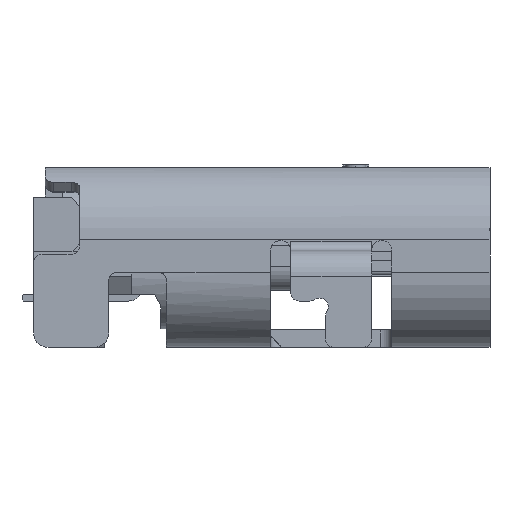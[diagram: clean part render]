
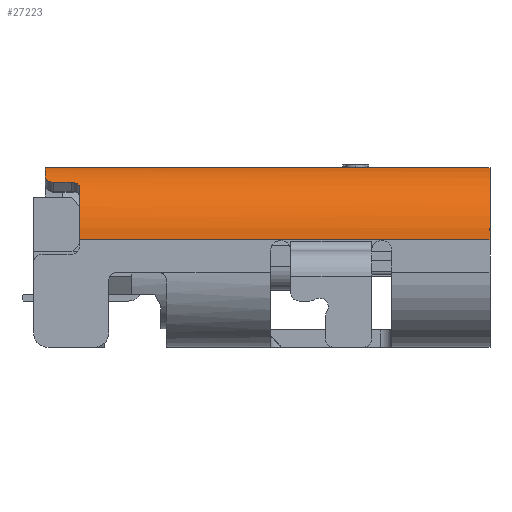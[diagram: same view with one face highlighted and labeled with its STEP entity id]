
A CAD part, left-side view. The second image highlights one B-rep face of the part: STEP entity #27223.
In plain terms, the highlighted cylindrical face has radius 1.3 mm (diameter 2.6 mm), a partial arc.
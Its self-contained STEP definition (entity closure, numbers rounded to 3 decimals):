
#1974 = DIRECTION ( 'NONE',  ( 0., 0., 1. ) ) ;
#2337 = CARTESIAN_POINT ( 'NONE',  ( -3.527, 1.53, 0. ) ) ;
#4339 = CIRCLE ( 'NONE', #78431, 1.3 ) ;
#4611 = CARTESIAN_POINT ( 'NONE',  ( -4.115, 1.173, -7.1 ) ) ;
#4909 = FACE_OUTER_BOUND ( 'NONE', #11389, .T. ) ;
#5036 = CARTESIAN_POINT ( 'NONE',  ( -3.949, 1.321, -7.684 ) ) ;
#5392 = EDGE_CURVE ( 'NONE', #75186, #44914, #77692, .T. ) ;
#8376 = VECTOR ( 'NONE', #1974, 1000. ) ;
#8619 = CARTESIAN_POINT ( 'NONE',  ( -4.018, 1.266, -7.172 ) ) ;
#11389 = EDGE_LOOP ( 'NONE', ( #76537, #35582, #33724, #37266, #41209, #28861, #58754, #48403 ) ) ;
#13073 = AXIS2_PLACEMENT_3D ( 'NONE', #77287, #16535, #60107 ) ;
#16535 = DIRECTION ( 'NONE',  ( 0., 0., 1. ) ) ;
#17023 = VERTEX_POINT ( 'NONE', #75801 ) ;
#17461 = CARTESIAN_POINT ( 'NONE',  ( -4.006, 1.276, -7.59 ) ) ;
#17844 = CARTESIAN_POINT ( 'NONE',  ( -3.918, 1.344, -7.7 ) ) ;
#18213 = CARTESIAN_POINT ( 'NONE',  ( -3.885, 1.366, -7.7 ) ) ;
#19837 = CARTESIAN_POINT ( 'NONE',  ( -4.06, 1.228, -7.116 ) ) ;
#20374 = CARTESIAN_POINT ( 'NONE',  ( -4.006, 1.276, -7.55 ) ) ;
#23688 = CARTESIAN_POINT ( 'NONE',  ( -4.47, 0.28, -7.1 ) ) ;
#25484 = CARTESIAN_POINT ( 'NONE',  ( -3.17, 0.28, 0. ) ) ;
#25758 = DIRECTION ( 'NONE',  ( 0., 0., 1. ) ) ;
#26732 = DIRECTION ( 'NONE',  ( 0., 0., -1. ) ) ;
#27223 = ADVANCED_FACE ( 'NONE', ( #4909 ), #72086, .T. ) ;
#28861 = ORIENTED_EDGE ( 'NONE', *, *, #56316, .T. ) ;
#29081 = B_SPLINE_CURVE_WITH_KNOTS ( 'NONE', 3,
 ( #59834, #17844, #5036, #29436, #17461, #41845 ),
 .UNSPECIFIED., .F., .F.,
 ( 4, 2, 4 ),
 ( 0., 0.5, 1. ),
 .UNSPECIFIED. ) ;
#29436 = CARTESIAN_POINT ( 'NONE',  ( -3.993, 1.286, -7.628 ) ) ;
#29953 = EDGE_CURVE ( 'NONE', #61663, #75186, #38363, .T. ) ;
#31144 = CARTESIAN_POINT ( 'NONE',  ( -3.527, 1.53, 0. ) ) ;
#31297 = EDGE_CURVE ( 'NONE', #61663, #17023, #4339, .T. ) ;
#32557 = VECTOR ( 'NONE', #26732, 1000. ) ;
#32877 = CARTESIAN_POINT ( 'NONE',  ( -3.17, 0.28, -7.1 ) ) ;
#33401 = CARTESIAN_POINT ( 'NONE',  ( -4.006, 1.276, -7.25 ) ) ;
#33724 = ORIENTED_EDGE ( 'NONE', *, *, #5392, .T. ) ;
#33950 = EDGE_CURVE ( 'NONE', #77710, #44496, #38385, .T. ) ;
#35266 = EDGE_CURVE ( 'NONE', #38597, #48479, #42797, .T. ) ;
#35582 = ORIENTED_EDGE ( 'NONE', *, *, #29953, .T. ) ;
#37266 = ORIENTED_EDGE ( 'NONE', *, *, #77135, .T. ) ;
#38164 = CARTESIAN_POINT ( 'NONE',  ( -3.17, 0.28, -7.7 ) ) ;
#38235 = CARTESIAN_POINT ( 'NONE',  ( -4.088, 1.201, -7.1 ) ) ;
#38363 = LINE ( 'NONE', #2337, #32557 ) ;
#38385 = LINE ( 'NONE', #20374, #8376 ) ;
#38597 = VERTEX_POINT ( 'NONE', #4611 ) ;
#38886 = DIRECTION ( 'NONE',  ( 0., 0., 1. ) ) ;
#38975 = AXIS2_PLACEMENT_3D ( 'NONE', #32877, #38886, #39672 ) ;
#39002 = EDGE_CURVE ( 'NONE', #17023, #48479, #66476, .T. ) ;
#39672 = DIRECTION ( 'NONE',  ( -0.727, 0.687, 0. ) ) ;
#40081 = CARTESIAN_POINT ( 'NONE',  ( -4.006, 1.276, -7.55 ) ) ;
#41209 = ORIENTED_EDGE ( 'NONE', *, *, #33950, .T. ) ;
#41845 = CARTESIAN_POINT ( 'NONE',  ( -4.006, 1.276, -7.55 ) ) ;
#42797 = CIRCLE ( 'NONE', #38975, 1.3 ) ;
#43449 = CARTESIAN_POINT ( 'NONE',  ( -4.006, 1.276, -7.25 ) ) ;
#43890 = DIRECTION ( 'NONE',  ( 0., 1., 0. ) ) ;
#44496 = VERTEX_POINT ( 'NONE', #43449 ) ;
#44543 = DIRECTION ( 'NONE',  ( 0., 1., 0. ) ) ;
#44566 = VECTOR ( 'NONE', #65306, 1000. ) ;
#44914 = VERTEX_POINT ( 'NONE', #18213 ) ;
#45019 = CARTESIAN_POINT ( 'NONE',  ( -4.115, 1.173, -7.1 ) ) ;
#48403 = ORIENTED_EDGE ( 'NONE', *, *, #39002, .F. ) ;
#48479 = VERTEX_POINT ( 'NONE', #23688 ) ;
#49903 = DIRECTION ( 'NONE',  ( 0., 0., 1. ) ) ;
#51001 = CARTESIAN_POINT ( 'NONE',  ( -3.527, 1.53, -7.7 ) ) ;
#54123 = CARTESIAN_POINT ( 'NONE',  ( -4.47, 0.28, 0. ) ) ;
#56316 = EDGE_CURVE ( 'NONE', #44496, #38597, #78429, .T. ) ;
#58613 = AXIS2_PLACEMENT_3D ( 'NONE', #38164, #25758, #44543 ) ;
#58754 = ORIENTED_EDGE ( 'NONE', *, *, #35266, .T. ) ;
#59834 = CARTESIAN_POINT ( 'NONE',  ( -3.885, 1.366, -7.7 ) ) ;
#60107 = DIRECTION ( 'NONE',  ( 1., 0., 0. ) ) ;
#61663 = VERTEX_POINT ( 'NONE', #31144 ) ;
#65306 = DIRECTION ( 'NONE',  ( 0., 0., -1. ) ) ;
#66476 = LINE ( 'NONE', #54123, #44566 ) ;
#68990 = CARTESIAN_POINT ( 'NONE',  ( -4.006, 1.276, -7.21 ) ) ;
#72086 = CYLINDRICAL_SURFACE ( 'NONE', #13073, 1.3 ) ;
#75186 = VERTEX_POINT ( 'NONE', #51001 ) ;
#75801 = CARTESIAN_POINT ( 'NONE',  ( -4.47, 0.28, 0. ) ) ;
#76537 = ORIENTED_EDGE ( 'NONE', *, *, #31297, .F. ) ;
#77135 = EDGE_CURVE ( 'NONE', #44914, #77710, #29081, .T. ) ;
#77287 = CARTESIAN_POINT ( 'NONE',  ( -3.17, 0.28, 0. ) ) ;
#77692 = CIRCLE ( 'NONE', #58613, 1.3 ) ;
#77710 = VERTEX_POINT ( 'NONE', #40081 ) ;
#78429 = B_SPLINE_CURVE_WITH_KNOTS ( 'NONE', 3,
 ( #33401, #68990, #8619, #19837, #38235, #45019 ),
 .UNSPECIFIED., .F., .F.,
 ( 4, 2, 4 ),
 ( 0., 0.5, 1. ),
 .UNSPECIFIED. ) ;
#78431 = AXIS2_PLACEMENT_3D ( 'NONE', #25484, #49903, #43890 ) ;
